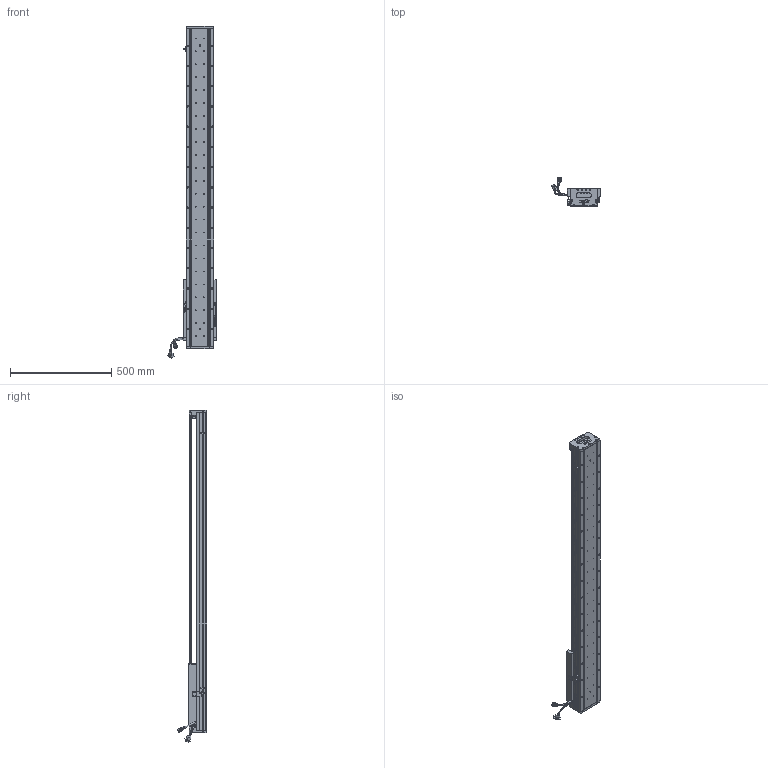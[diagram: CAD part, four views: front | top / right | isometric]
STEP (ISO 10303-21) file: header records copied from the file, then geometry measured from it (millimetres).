
FILE_DESCRIPTION (( 'STEP AP203' ), '1' );
FILE_NAME ('Z4-RY140D-1-L500-B-K.SLDASM_1200.step', '2021-05-17T08:16:00', ( '盈信电脑' ), ( '东莞市道滘镇水果街19号' ), 'SwSTEP 2.0', 'SolidWorks 2016', '' );
FILE_SCHEMA (( 'CONFIG_CONTROL_DESIGN' ));
Length unit declared in the file: millimetre
Products named in the file (36): HARNESS-Part-2; 140蚥薯蝶輸; SCALE-Part-1; Z-140詩湍傷裔啣; Z-RY140感应器672光电感应片; 詩湍奻揤裔; 080黍杅芛假蚾釱21遴; COVER-Part-1; Z4-RY140D-1-L500-B-K.SLDASM_1200; Z4-RY140-L500直线电机模组底座_1200; Z4-RY140圉猾敕臏賑輸(21遴); PSLH080_PSLF2; HARNESS-Part-1; SCREW-M1.6; SEAL; LABEL-Part-1; SCREW-M1.6-2; LABEL; SCALE-Part-2; SHIELDPLATE; SCREW-M1.6-1; SCREW-M1.6-3; COVER; 覜茼ん672; HOLDER0; 榋妏寠巭燃_暯_M2_2; 140-Z-臏賑輸盄裔(21遴); SEAL-Part-1; SCREW-M1.7; 詩湍狟揤裔; Z4-RY140-L500詩湍100mm遵_1200; SCALE; SCREW-M1.7-1; PBU_SHEET; 140雄赽晤鎢ん堤盄; HARNESS
Assembly tree (41 placements, depth 4):
  Z4-RY140D-1-L500-B-K.SLDASM_1200
    Z4-RY140-L500直线电机模组底座_1200
    Z-RY140感应器672光电感应片
    Z4-RY140圉猾敕臏賑輸(21遴)
    覜茼ん672  x3
    Z4-RY140-L500詩湍100mm遵_1200
    PSLH080_PSLF2
      SCALE
        SCALE-Part-1
        SCALE-Part-2
      HARNESS
        HARNESS-Part-1
        HARNESS-Part-2
      LABEL
        LABEL-Part-1
      COVER
        COVER-Part-1
      SEAL
        SEAL-Part-1
      榋妏寠巭燃_暯_M2_2
      SHIELDPLATE
      SCREW-M1.7
      SCREW-M1.7-1
      PBU_SHEET
      SCREW-M1.6
      SCREW-M1.6-1
      SCREW-M1.6-2
      SCREW-M1.6-3
      HOLDER0
    080黍杅芛假蚾釱21遴
    140-Z-臏賑輸盄裔(21遴)
    Z-140詩湍傷裔啣  x2
    詩湍狟揤裔  x2
    詩湍奻揤裔  x2
    140蚥薯蝶輸  x2
    140雄赽晤鎢ん堤盄
Bounding box: 239.83 x 143.88 x 1640.87 mm (x, y, z)
Volume: 5845024.7 mm3; surface area: 1492615.9 mm2
Topology: 36 solids, 36 shells, 3348 faces, 8934 edges, 5655 vertices
Faces by surface type: cylinder 1676, plane 1216, cone 334, torus 69, bspline 53
Entity records: 101310 total; most frequent: CARTESIAN_POINT 26777, ORIENTED_EDGE 14924, DIRECTION 14402, EDGE_CURVE 7462, AXIS2_PLACEMENT_3D 5328, VERTEX_POINT 4823, LINE 3746, VECTOR 3746
